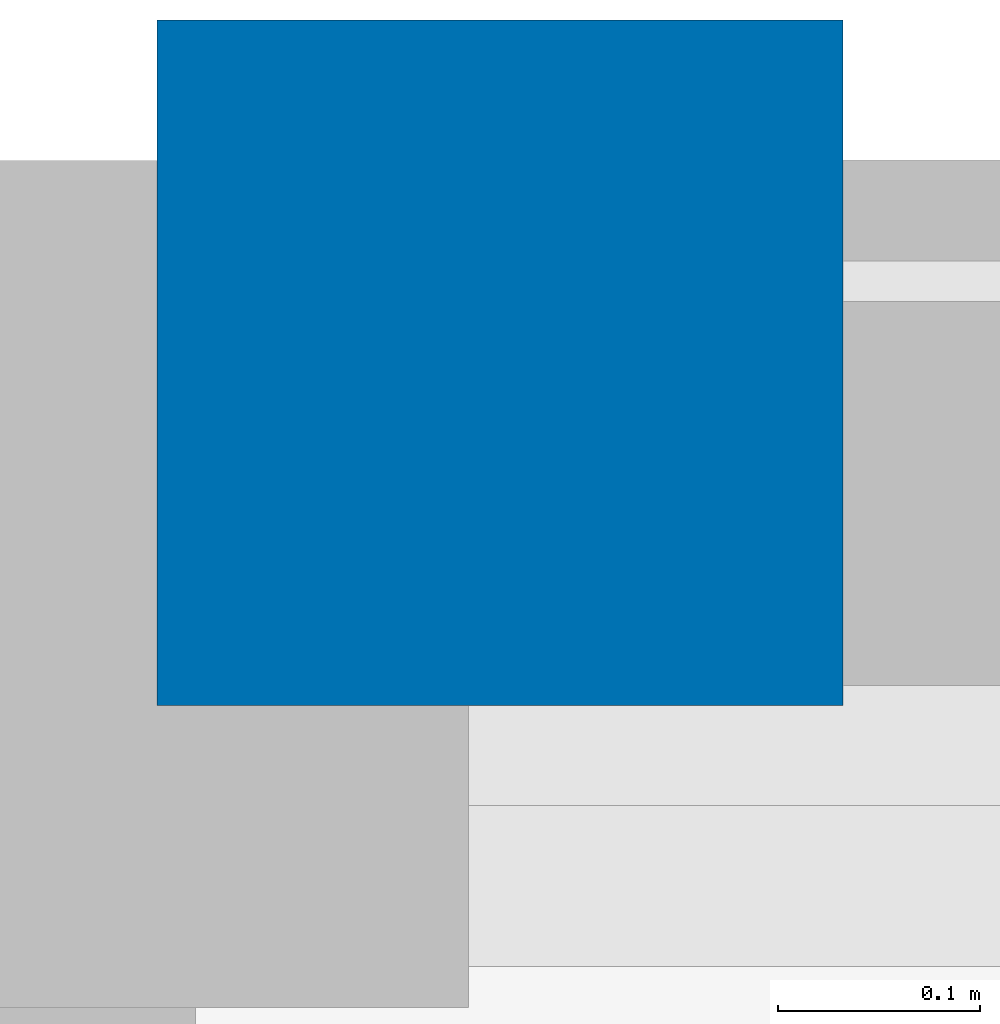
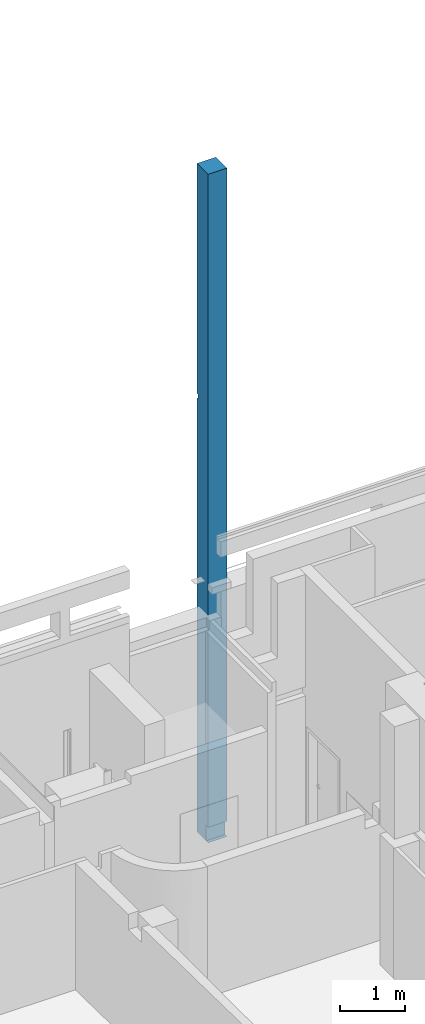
# One storey, part 9 of 39: 1 column.
"""IFC4 building model written with IfcOpenShell, lengths in metres."""

from ifc_helpers import new_model, entity, si_unit, converted_unit, derived_unit, direction, frame, origin, place, context, subcontext, project, spatial, polygons, source, transform, mapped, material, type_object, type_shapes, element, save


model = new_model("IFC4")

# Units and contexts
model_context = context("Model", 3, precision=1e-05, world=origin(), true_north=direction((6.12303176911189e-17, 1.0)))
body_context = subcontext(model_context, "Body", "Model", "MODEL_VIEW")
ifc_project = project(units=[si_unit("LENGTHUNIT", "METRE"), si_unit("AREAUNIT", "SQUARE_METRE"), si_unit("VOLUMEUNIT", "CUBIC_METRE"), converted_unit("PLANEANGLEUNIT", "DEGREE", entity("IfcRatioMeasure", 0.0174532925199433), si_unit("PLANEANGLEUNIT", "RADIAN"), dimensions=[0, 0, 0, 0, 0, 0, 0]), si_unit("MASSUNIT", "GRAM", prefix="KILO"), derived_unit("MASSDENSITYUNIT", [(si_unit("MASSUNIT", "GRAM", prefix="KILO"), 1), (si_unit("LENGTHUNIT", "METRE"), -3)]), derived_unit("MOMENTOFINERTIAUNIT", [(si_unit("LENGTHUNIT", "METRE"), 4)]), si_unit("TIMEUNIT", "SECOND"), si_unit("FREQUENCYUNIT", "HERTZ"), si_unit("THERMODYNAMICTEMPERATUREUNIT", "DEGREE_CELSIUS"), derived_unit("THERMALTRANSMITTANCEUNIT", [(si_unit("MASSUNIT", "GRAM", prefix="KILO"), 1), (si_unit("THERMODYNAMICTEMPERATUREUNIT", "KELVIN"), -1), (si_unit("TIMEUNIT", "SECOND"), -3)]), derived_unit("VOLUMETRICFLOWRATEUNIT", [(si_unit("LENGTHUNIT", "METRE"), 3), (si_unit("TIMEUNIT", "SECOND"), -1)]), si_unit("ELECTRICCURRENTUNIT", "AMPERE"), si_unit("ELECTRICVOLTAGEUNIT", "VOLT"), si_unit("POWERUNIT", "WATT"), si_unit("FORCEUNIT", "NEWTON", prefix="KILO"), si_unit("ILLUMINANCEUNIT", "LUX"), si_unit("LUMINOUSFLUXUNIT", "LUMEN"), si_unit("LUMINOUSINTENSITYUNIT", "CANDELA"), derived_unit("USERDEFINED", [(si_unit("MASSUNIT", "GRAM", prefix="KILO"), -1), (si_unit("LENGTHUNIT", "METRE"), -2), (si_unit("TIMEUNIT", "SECOND"), 3), (si_unit("LUMINOUSFLUXUNIT", "LUMEN"), 1)]), derived_unit("LINEARVELOCITYUNIT", [(si_unit("LENGTHUNIT", "METRE"), 1), (si_unit("TIMEUNIT", "SECOND"), -1)]), si_unit("PRESSUREUNIT", "PASCAL"), derived_unit("USERDEFINED", [(si_unit("LENGTHUNIT", "METRE"), -2), (si_unit("MASSUNIT", "GRAM", prefix="KILO"), 1), (si_unit("TIMEUNIT", "SECOND"), -2)]), derived_unit("LINEARFORCEUNIT", [(si_unit("MASSUNIT", "GRAM", prefix="KILO"), 1), (si_unit("LENGTHUNIT", "METRE"), 1), (si_unit("TIMEUNIT", "SECOND"), -2), (si_unit("LENGTHUNIT", "METRE"), -1)]), derived_unit("PLANARFORCEUNIT", [(si_unit("MASSUNIT", "GRAM", prefix="KILO"), 1), (si_unit("LENGTHUNIT", "METRE"), 1), (si_unit("TIMEUNIT", "SECOND"), -2), (si_unit("LENGTHUNIT", "METRE"), -2)])], contexts=[model_context])

# Site, building, storey
site_placement = place(None, origin())
site = spatial("IfcSite", under=ifc_project, at=site_placement, Name="Default", CompositionType="ELEMENT")
building_placement = place(site_placement, origin())
building = spatial("IfcBuilding", under=site, at=building_placement, Name="HOTEL CONSULAIRE BOULOGNE SUR MER", CompositionType="ELEMENT")
storey_placement = place(building_placement, frame((0.0, 0.0, -5.02343668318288)))
storey = spatial("IfcBuildingStorey", under=building, at=storey_placement, Name="SS3", CompositionType="ELEMENT", Elevation=-5.02343668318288)

# Column
ifc_material = material(Name="Maçonnerie - Béton coulé sur place", Category="Béton")
column_type = type_object("IfcColumnType", Name="Poteau béton - Rectangulaire:340x340", PredefinedType="COLUMN", material=ifc_material)
shared_shape = source(origin(), body_context, "Body", "Tessellation", [
    polygons([(0.340000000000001, 0.340000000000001, 0.0), (0.340000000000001, 0.0, 0.0), (0.0, 0.0, 0.0), (0.0, 0.340000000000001, 0.0), (0.340000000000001, 0.34, 8.16833668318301), (0.340000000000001, 0.304308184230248, 8.16833668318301), (0.340000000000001, 0.304308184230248, 8.26833668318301), (0.340000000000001, 0.34, 8.26833668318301), (0.340000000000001, 0.34, 12.596336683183), (0.340000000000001, 0.0, 12.596336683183), (0.340000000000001, 0.0, 11.1852270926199), (0.340000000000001, 0.0, 9.01544145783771), (0.340000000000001, 0.0, 8.37586366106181), (0.340000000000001, 0.0, 8.19586366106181), (0.340000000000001, 0.0, 5.74433668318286), (0.340000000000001, 0.0, 5.40485171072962), (0.340000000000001, 0.0, 4.88156930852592), (0.340000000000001, 0.0, 4.75789999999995), (0.340000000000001, 0.0, 0.290899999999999), (0.340000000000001, 0.0603081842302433, 0.290899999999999), (0.340000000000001, 0.0603081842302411, 0.000899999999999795), (0.340000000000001, 0.0, 0.000899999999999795), (0.0, 0.0, 12.596336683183), (0.0, 0.0, 10.3774762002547), (0.0, 0.0, 9.58586366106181), (0.0, 0.0, 9.3508636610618), (0.0, 0.0, 9.01544145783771), (0.0, 0.0, 5.4043366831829), (0.0, 0.0, 4.88156930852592), (0.0, 0.0, 4.75913690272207), (0.0, 0.0, 4.29276120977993), (0.0, 0.0, 0.290899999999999), (0.154320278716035, 0.0, 0.290899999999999), (0.0, 0.0, 0.000899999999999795), (0.0, 0.0603081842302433, 0.000899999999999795), (0.0, 0.0603081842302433, 0.290899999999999), (0.0, 0.340000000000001, 12.596336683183), (0.0, 0.340000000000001, 8.26833668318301), (0.0, 0.304308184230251, 8.26833668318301), (0.0, 0.304308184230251, 8.16833668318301), (0.0, 0.340000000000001, 8.16833668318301), (0.154320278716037, 0.0, 0.000899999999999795)], [[[3, 4, 1, 2]], [[33, 32, 36, 20, 19]], [[39, 38, 8, 7]], [[9, 10, 11, 12, 13, 14, 15, 16, 17, 18, 19, 20, 21, 22, 2, 1, 5, 6, 7, 8]], [[11, 10, 23, 24, 25, 26, 27, 28, 29, 30, 31, 32, 33, 19, 18, 17, 16, 15, 14, 13, 12]], [[36, 35, 21, 20]], [[42, 34, 3, 2, 22]], [[24, 23, 37, 38, 39, 40, 41, 4, 3, 34, 35, 36, 32, 31, 30, 29, 28, 27, 26, 25]], [[37, 9, 8, 38]], [[7, 6, 40, 39]], [[41, 5, 1, 4]], [[10, 9, 37, 23]], [[35, 34, 42, 22, 21]], [[6, 5, 41, 40]]], closed=True),
])
type_shapes(column_type, [shared_shape])
column_placement = place(storey_placement, frame((11.3066382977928, -10.0846323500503, -0.940899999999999)))
element("IfcColumn", 1, at=column_placement, inside=storey, type_object=column_type, material=ifc_material, Name="Poteau béton - Rectangulaire:340x340", ObjectType="Poteau béton - Rectangulaire:340x340", PredefinedType="COLUMN", context=body_context, shape_type="MappedRepresentation", body=[
    mapped(shared_shape, transform((0.0, 0.0, 0.0), scale=1.0)),
])

save(model, "model.ifc")
